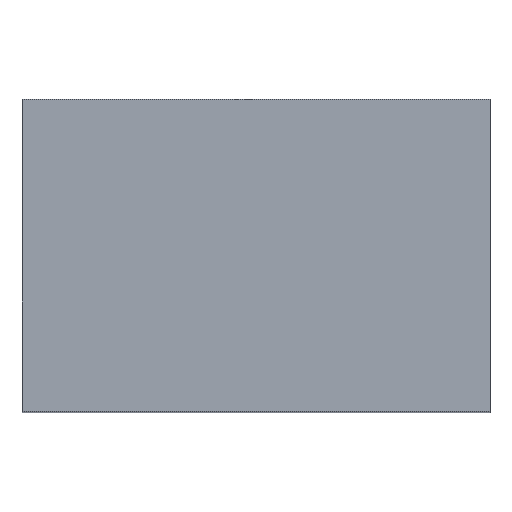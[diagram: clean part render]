
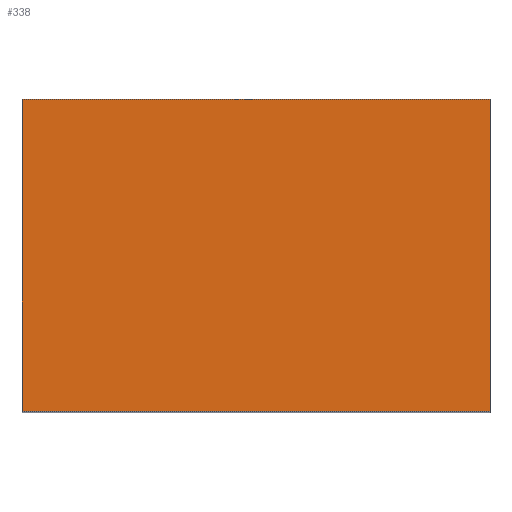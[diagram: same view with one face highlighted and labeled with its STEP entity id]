
A CAD part, top view. The second image highlights one B-rep face of the part: STEP entity #338.
In plain terms, the highlighted planar face has unit normal (0, 0, 1).
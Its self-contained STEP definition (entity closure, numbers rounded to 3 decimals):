
#21 = EDGE_CURVE('',#22,#24,#26,.T.);
#22 = VERTEX_POINT('',#23);
#23 = CARTESIAN_POINT('',(8.,37.,44.5));
#24 = VERTEX_POINT('',#25);
#25 = CARTESIAN_POINT('',(8.,33.,44.5));
#26 = SURFACE_CURVE('',#27,(#31,#43),.PCURVE_S1.);
#27 = LINE('',#28,#29);
#28 = CARTESIAN_POINT('',(8.,33.,44.5));
#29 = VECTOR('',#30,1.);
#30 = DIRECTION('',(0.,-1.,0.));
#31 = PCURVE('',#32,#37);
#32 = PLANE('',#33);
#33 = AXIS2_PLACEMENT_3D('',#34,#35,#36);
#34 = CARTESIAN_POINT('',(8.,33.,35.));
#35 = DIRECTION('',(1.,0.,0.));
#36 = DIRECTION('',(0.,0.,1.));
#37 = DEFINITIONAL_REPRESENTATION('',(#38),#42);
#38 = LINE('',#39,#40);
#39 = CARTESIAN_POINT('',(9.5,0.));
#40 = VECTOR('',#41,1.);
#41 = DIRECTION('',(0.,1.));
#42 = ( GEOMETRIC_REPRESENTATION_CONTEXT(2) 
PARAMETRIC_REPRESENTATION_CONTEXT() REPRESENTATION_CONTEXT('2D SPACE',''
  ) );
#43 = PCURVE('',#44,#49);
#44 = PLANE('',#45);
#45 = AXIS2_PLACEMENT_3D('',#46,#47,#48);
#46 = CARTESIAN_POINT('',(8.,33.,44.5));
#47 = DIRECTION('',(0.,0.,1.));
#48 = DIRECTION('',(1.,0.,0.));
#49 = DEFINITIONAL_REPRESENTATION('',(#50),#54);
#50 = LINE('',#51,#52);
#51 = CARTESIAN_POINT('',(0.,0.));
#52 = VECTOR('',#53,1.);
#53 = DIRECTION('',(0.,-1.));
#54 = ( GEOMETRIC_REPRESENTATION_CONTEXT(2) 
PARAMETRIC_REPRESENTATION_CONTEXT() REPRESENTATION_CONTEXT('2D SPACE',''
  ) );
#72 = PLANE('',#73);
#73 = AXIS2_PLACEMENT_3D('',#74,#75,#76);
#74 = CARTESIAN_POINT('',(8.,37.,35.));
#75 = DIRECTION('',(0.,1.,0.));
#76 = DIRECTION('',(0.,0.,1.));
#126 = PLANE('',#127);
#127 = AXIS2_PLACEMENT_3D('',#128,#129,#130);
#128 = CARTESIAN_POINT('',(8.,33.,35.));
#129 = DIRECTION('',(0.,1.,0.));
#130 = DIRECTION('',(0.,0.,1.));
#144 = VERTEX_POINT('',#145);
#145 = CARTESIAN_POINT('',(14.,33.,44.5));
#152 = PLANE('',#153);
#153 = AXIS2_PLACEMENT_3D('',#154,#155,#156);
#154 = CARTESIAN_POINT('',(14.,33.,35.));
#155 = DIRECTION('',(1.,0.,0.));
#156 = DIRECTION('',(0.,0.,1.));
#195 = VERTEX_POINT('',#196);
#196 = CARTESIAN_POINT('',(14.,37.,44.5));
#217 = EDGE_CURVE('',#144,#195,#218,.T.);
#218 = SURFACE_CURVE('',#219,(#223,#230),.PCURVE_S1.);
#219 = LINE('',#220,#221);
#220 = CARTESIAN_POINT('',(14.,33.,44.5));
#221 = VECTOR('',#222,1.);
#222 = DIRECTION('',(0.,1.,0.));
#223 = PCURVE('',#152,#224);
#224 = DEFINITIONAL_REPRESENTATION('',(#225),#229);
#225 = LINE('',#226,#227);
#226 = CARTESIAN_POINT('',(9.5,0.));
#227 = VECTOR('',#228,1.);
#228 = DIRECTION('',(0.,-1.));
#229 = ( GEOMETRIC_REPRESENTATION_CONTEXT(2) 
PARAMETRIC_REPRESENTATION_CONTEXT() REPRESENTATION_CONTEXT('2D SPACE',''
  ) );
#230 = PCURVE('',#44,#231);
#231 = DEFINITIONAL_REPRESENTATION('',(#232),#236);
#232 = LINE('',#233,#234);
#233 = CARTESIAN_POINT('',(6.,0.));
#234 = VECTOR('',#235,1.);
#235 = DIRECTION('',(0.,1.));
#236 = ( GEOMETRIC_REPRESENTATION_CONTEXT(2) 
PARAMETRIC_REPRESENTATION_CONTEXT() REPRESENTATION_CONTEXT('2D SPACE',''
  ) );
#242 = EDGE_CURVE('',#24,#144,#243,.T.);
#243 = SURFACE_CURVE('',#244,(#248,#255),.PCURVE_S1.);
#244 = LINE('',#245,#246);
#245 = CARTESIAN_POINT('',(8.,33.,44.5));
#246 = VECTOR('',#247,1.);
#247 = DIRECTION('',(1.,0.,0.));
#248 = PCURVE('',#126,#249);
#249 = DEFINITIONAL_REPRESENTATION('',(#250),#254);
#250 = LINE('',#251,#252);
#251 = CARTESIAN_POINT('',(9.5,0.));
#252 = VECTOR('',#253,1.);
#253 = DIRECTION('',(0.,1.));
#254 = ( GEOMETRIC_REPRESENTATION_CONTEXT(2) 
PARAMETRIC_REPRESENTATION_CONTEXT() REPRESENTATION_CONTEXT('2D SPACE',''
  ) );
#255 = PCURVE('',#44,#256);
#256 = DEFINITIONAL_REPRESENTATION('',(#257),#261);
#257 = LINE('',#258,#259);
#258 = CARTESIAN_POINT('',(0.,0.));
#259 = VECTOR('',#260,1.);
#260 = DIRECTION('',(1.,0.));
#261 = ( GEOMETRIC_REPRESENTATION_CONTEXT(2) 
PARAMETRIC_REPRESENTATION_CONTEXT() REPRESENTATION_CONTEXT('2D SPACE',''
  ) );
#310 = EDGE_CURVE('',#22,#195,#311,.T.);
#311 = SURFACE_CURVE('',#312,(#316,#323),.PCURVE_S1.);
#312 = LINE('',#313,#314);
#313 = CARTESIAN_POINT('',(8.,37.,44.5));
#314 = VECTOR('',#315,1.);
#315 = DIRECTION('',(1.,0.,0.));
#316 = PCURVE('',#72,#317);
#317 = DEFINITIONAL_REPRESENTATION('',(#318),#322);
#318 = LINE('',#319,#320);
#319 = CARTESIAN_POINT('',(9.5,0.));
#320 = VECTOR('',#321,1.);
#321 = DIRECTION('',(0.,1.));
#322 = ( GEOMETRIC_REPRESENTATION_CONTEXT(2) 
PARAMETRIC_REPRESENTATION_CONTEXT() REPRESENTATION_CONTEXT('2D SPACE',''
  ) );
#323 = PCURVE('',#44,#324);
#324 = DEFINITIONAL_REPRESENTATION('',(#325),#329);
#325 = LINE('',#326,#327);
#326 = CARTESIAN_POINT('',(0.,4.));
#327 = VECTOR('',#328,1.);
#328 = DIRECTION('',(1.,0.));
#329 = ( GEOMETRIC_REPRESENTATION_CONTEXT(2) 
PARAMETRIC_REPRESENTATION_CONTEXT() REPRESENTATION_CONTEXT('2D SPACE',''
  ) );
#338 = ADVANCED_FACE('',(#339),#44,.T.);
#339 = FACE_BOUND('',#340,.T.);
#340 = EDGE_LOOP('',(#341,#342,#343,#344));
#341 = ORIENTED_EDGE('',*,*,#21,.T.);
#342 = ORIENTED_EDGE('',*,*,#242,.T.);
#343 = ORIENTED_EDGE('',*,*,#217,.T.);
#344 = ORIENTED_EDGE('',*,*,#310,.F.);
